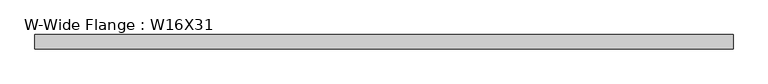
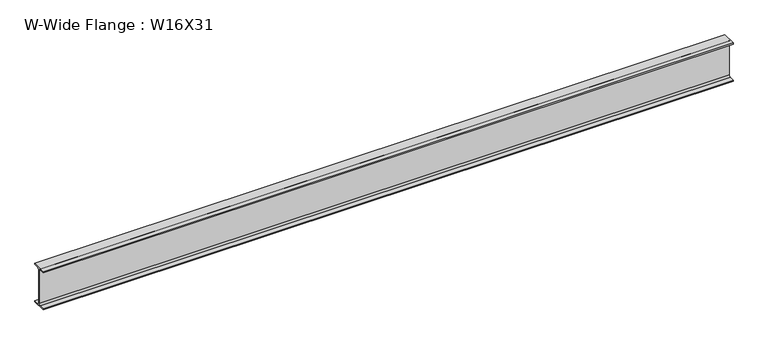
"""IFC4 building model written with IfcOpenShell, lengths in millimetres: beam geometry, W-Wide Flange : W16X31."""

from ifc_helpers import new_model, si_unit, point, frame, frame_2d, origin, place, context, project, spatial, polyline, circle_curve, trimmed, segment, composite_curve, outline, extrude, source, transform, mapped, element, save


def w_wide_flange_w16x31_e9b65252(model_context):
    return source(origin(), model_context, "Body", "SweptSolid", [
        extrude(outline(composite_curve([segment(polyline([(70.231, -190.754), (70.231, -201.93), (-70.231, -201.93), (-70.231, -190.754), (-20.8915, -190.754)]), True, "CONTINUOUS"), segment(trimmed(circle_curve(frame_2d((-20.8915, -173.355)), 17.399), [point((-20.8915, -190.754))], [point((-3.4925, -173.355))], True, "CARTESIAN"), True, "CONTINUOUS"), segment(polyline([(-3.4925, -173.355), (-3.4925, 173.355)]), True, "CONTINUOUS"), segment(trimmed(circle_curve(frame_2d((-20.8915, 173.355)), 17.399), [point((-3.4925, 173.355))], [point((-20.8915, 190.754))], True, "CARTESIAN"), True, "CONTINUOUS"), segment(polyline([(-20.8915, 190.754), (-70.231, 190.754), (-70.231, 201.93), (70.231, 201.93), (70.231, 190.754), (20.8915, 190.754)]), True, "CONTINUOUS"), segment(trimmed(circle_curve(frame_2d((20.8915, 173.355)), 17.399), [point((20.8915, 190.754))], [point((3.4925, 173.355))], True, "CARTESIAN"), True, "CONTINUOUS"), segment(polyline([(3.4925, 173.355), (3.4925, -173.355)]), True, "CONTINUOUS"), segment(trimmed(circle_curve(frame_2d((20.8915, -173.355)), 17.399), [point((3.4925, -173.355))], [point((20.8915, -190.754))], True, "CARTESIAN"), True, "CONTINUOUS"), segment(polyline([(20.8915, -190.754), (70.231, -190.754)]), True, "CONTINUOUS")], self_intersect=False)), frame((-3424.2379887, 0.0, 0.0), z_axis=(1.0, 0.0, 0.0), x_axis=(0.0, 1.0, 0.0)), (0.0, 0.0, 1.0), 6879.267499),
    ])


if __name__ == "__main__":
    model = new_model("IFC4")
    model_context = context("Model", 3, world=origin())
    ifc_project = project(units=[si_unit("LENGTHUNIT", "METRE", prefix="MILLI")], contexts=[model_context])
    site = spatial("IfcSite", under=ifc_project)
    building = spatial("IfcBuilding", under=site)
    placement = place(None, origin())
    w_wide_flange_w16x31_shape = w_wide_flange_w16x31_e9b65252(model_context)
    element("IfcBeam", 1, ObjectType="W-Wide Flange : W16X31", at=placement, inside=building, context=model_context, shape_type="MappedRepresentation", body=[
        mapped(w_wide_flange_w16x31_shape, transform((0.0, 0.0, 0.0), x_axis=(1.0, 0.0, 0.0), y_axis=(0.0, 1.0, 0.0), z_axis=(0.0, 0.0, 1.0))),
    ])
    save(model, "model.ifc")
